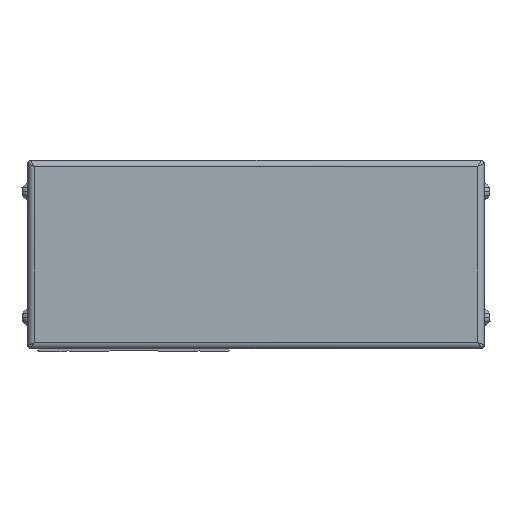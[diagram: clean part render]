
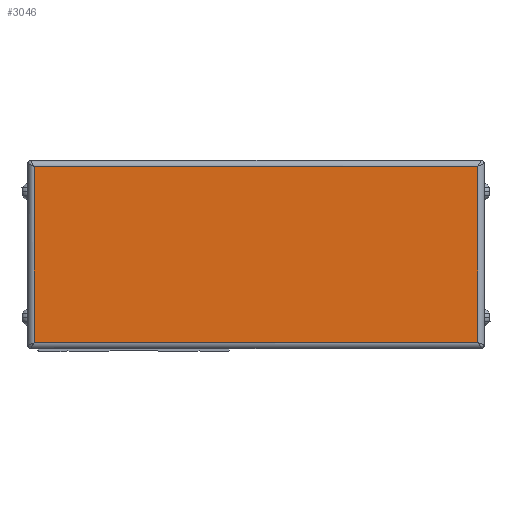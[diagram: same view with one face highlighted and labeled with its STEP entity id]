
A CAD part, left-side view. The second image highlights one B-rep face of the part: STEP entity #3046.
In plain terms, the highlighted planar face has unit normal (-1, 0, 0) as drawn and (0, 0, 1) by its records, which use the part's own axes.
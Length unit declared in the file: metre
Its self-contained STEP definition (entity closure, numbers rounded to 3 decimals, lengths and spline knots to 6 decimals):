
#3046=ADVANCED_FACE('',(#6803),#6804,.T.);
#6803=FACE_OUTER_BOUND('',#12130,.T.);
#6804=PLANE('',#12131);
#12130=EDGE_LOOP('',(#22579,#22580,#22581,#22582));
#12131=AXIS2_PLACEMENT_3D('',#22583,#22584,#22585);
#22579=ORIENTED_EDGE('',*,*,#34033,.F.);
#22580=ORIENTED_EDGE('',*,*,#34034,.F.);
#22581=ORIENTED_EDGE('',*,*,#34035,.F.);
#22582=ORIENTED_EDGE('',*,*,#34036,.F.);
#22583=CARTESIAN_POINT('',(-0.009,-0.053256,0.033889));
#22584=DIRECTION('',(0.0,0.0,1.0));
#22585=DIRECTION('',(1.0,0.0,0.0));
#34033=EDGE_CURVE('',#40365,#38404,#40366,.T.);
#34034=EDGE_CURVE('',#40367,#40365,#40368,.T.);
#34035=EDGE_CURVE('',#40369,#40367,#40370,.T.);
#34036=EDGE_CURVE('',#38404,#40369,#40371,.T.);
#38404=VERTEX_POINT('',#46214);
#40365=VERTEX_POINT('',#49013);
#40366=LINE('',#49014,#49015);
#40367=VERTEX_POINT('',#49016);
#40368=LINE('',#49017,#49018);
#40369=VERTEX_POINT('',#49019);
#40370=LINE('',#49020,#49021);
#40371=LINE('',#49022,#49023);
#46214=CARTESIAN_POINT('',(0.019,-0.123956,0.033889));
#49013=CARTESIAN_POINT('',(0.019,0.017444,0.033889));
#49014=CARTESIAN_POINT('',(0.019,-0.053256,0.033889));
#49015=VECTOR('',#57834,1.0);
#49016=CARTESIAN_POINT('',(-0.037,0.017444,0.033889));
#49017=CARTESIAN_POINT('',(-0.009,0.017444,0.033889));
#49018=VECTOR('',#57835,1.0);
#49019=CARTESIAN_POINT('',(-0.037,-0.123956,0.033889));
#49020=CARTESIAN_POINT('',(-0.037,-0.053256,0.033889));
#49021=VECTOR('',#57836,1.0);
#49022=CARTESIAN_POINT('',(-0.009,-0.123956,0.033889));
#49023=VECTOR('',#57837,1.0);
#57834=DIRECTION('',(0.0,-1.0,0.0));
#57835=DIRECTION('',(1.0,0.0,0.0));
#57836=DIRECTION('',(0.0,1.0,0.0));
#57837=DIRECTION('',(-1.0,0.0,0.0));
